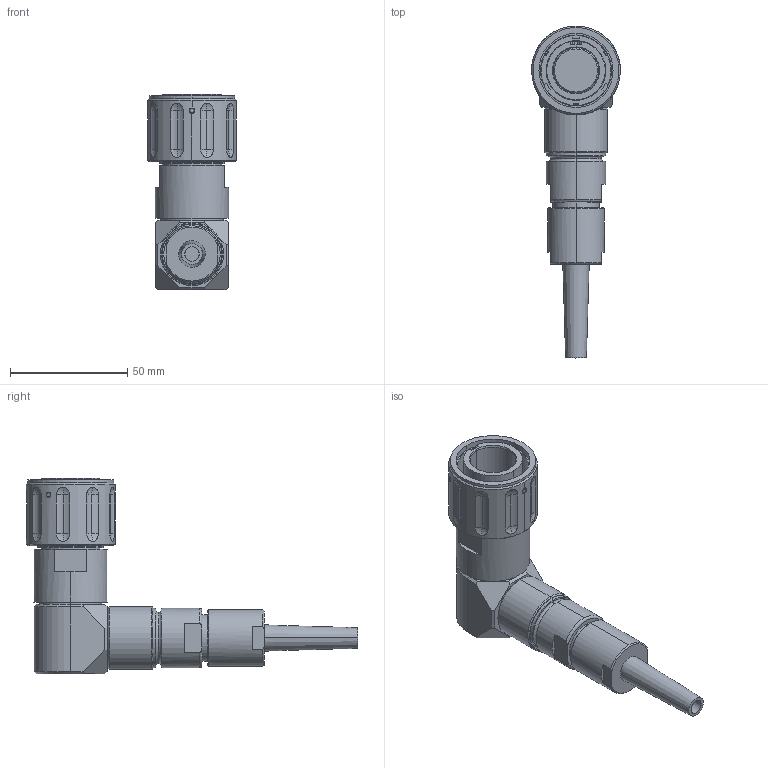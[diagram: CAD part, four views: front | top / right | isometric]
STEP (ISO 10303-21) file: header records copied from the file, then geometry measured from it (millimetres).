
FILE_DESCRIPTION (( 'STEP AP214' ), '1' );
FILE_NAME ('QLINK90-PGBX-17XX-SXXX-RA.STEP', '2025-12-09T16:13:36', ( '' ), ( '' ), 'SwSTEP 2.0', 'SolidWorks 2024', '' );
FILE_SCHEMA (( 'AUTOMOTIVE_DESIGN' ));
Length unit declared in the file: millimetre
Products named in the file (1): QLINK90-PGBX-17XX-SXXX-RA
Bounding box: 37.97 x 141.67 x 83.69 mm (x, y, z)
Volume: 101419.6 mm3; surface area: 26205.2 mm2
Topology: 5 solids, 7 shells, 322 faces, 742 edges, 466 vertices
Faces by surface type: cylinder 106, plane 94, cone 61, sphere 36, torus 13, bspline 12
Entity records: 14011 total; most frequent: CARTESIAN_POINT 6709, DIRECTION 1543, ORIENTED_EDGE 1484, EDGE_CURVE 742, AXIS2_PLACEMENT_3D 621, VERTEX_POINT 466, EDGE_LOOP 364, ADVANCED_FACE 322
